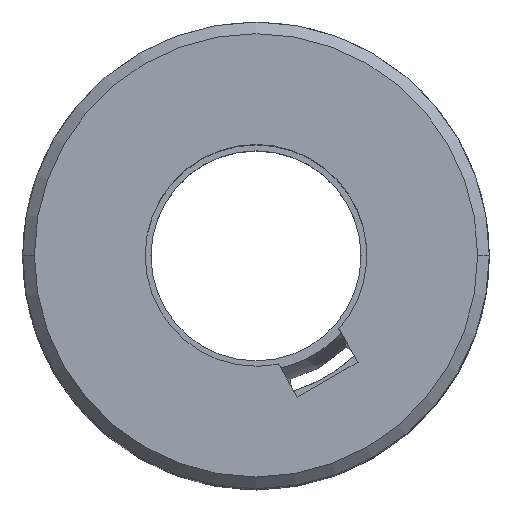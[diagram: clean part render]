
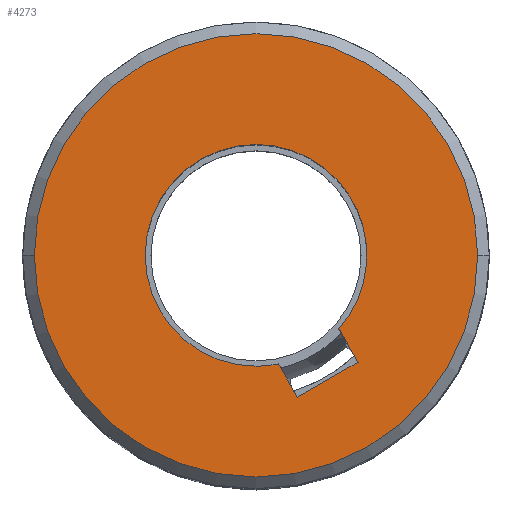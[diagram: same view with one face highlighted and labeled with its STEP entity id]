
A CAD part, top view. The second image highlights one B-rep face of the part: STEP entity #4273.
In plain terms, the highlighted planar face has unit normal (0, 0, 1) as drawn and (0, 0, -1) by its records, which use the part's own axes.
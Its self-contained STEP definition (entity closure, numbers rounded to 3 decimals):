
#31 = ORIENTED_EDGE ( 'NONE', *, *, #203, .T. ) ;
#42 = CARTESIAN_POINT ( 'NONE',  ( -9.152, 8.748, -25. ) ) ;
#104 = CIRCLE ( 'NONE', #4157, 9.5 ) ;
#167 = DIRECTION ( 'NONE',  ( -0.866, 0.5, 0. ) ) ;
#203 = EDGE_CURVE ( 'NONE', #4636, #1594, #5671, .T. ) ;
#334 = PLANE ( 'NONE',  #1576 ) ;
#537 = CIRCLE ( 'NONE', #3840, 19. ) ;
#570 = VECTOR ( 'NONE', #4685, 1000. ) ;
#583 = CARTESIAN_POINT ( 'NONE',  ( 0., 0., -25. ) ) ;
#668 = CARTESIAN_POINT ( 'NONE',  ( -12.152, 3.552, -25. ) ) ;
#670 = DIRECTION ( 'NONE',  ( -0.98, 0.201, 0. ) ) ;
#799 = DIRECTION ( 'NONE',  ( 0., 0., -1. ) ) ;
#907 = LINE ( 'NONE', #2234, #4038 ) ;
#996 = LINE ( 'NONE', #1912, #3902 ) ;
#1014 = DIRECTION ( 'NONE',  ( 0., 0., 1. ) ) ;
#1385 = EDGE_CURVE ( 'NONE', #4794, #2211, #104, .T. ) ;
#1505 = EDGE_LOOP ( 'NONE', ( #31, #3891, #3301, #3662, #5540, #3779 ) ) ;
#1576 = AXIS2_PLACEMENT_3D ( 'NONE', #4850, #799, #3491 ) ;
#1594 = VERTEX_POINT ( 'NONE', #1767 ) ;
#1691 = FACE_BOUND ( 'NONE', #1505, .T. ) ;
#1727 = EDGE_CURVE ( 'NONE', #2661, #2994, #1909, .T. ) ;
#1767 = CARTESIAN_POINT ( 'NONE',  ( -9.5, 0., -25. ) ) ;
#1818 = DIRECTION ( 'NONE',  ( 0., 0., -1. ) ) ;
#1835 = DIRECTION ( 'NONE',  ( -0.98, 0.201, 0. ) ) ;
#1909 = CIRCLE ( 'NONE', #2955, 19. ) ;
#1912 = CARTESIAN_POINT ( 'NONE',  ( -9.306, 1.909, -25. ) ) ;
#2024 = CARTESIAN_POINT ( 'NONE',  ( 0., 19., -25. ) ) ;
#2055 = LINE ( 'NONE', #668, #570 ) ;
#2170 = EDGE_CURVE ( 'NONE', #1594, #4794, #2265, .T. ) ;
#2211 = VERTEX_POINT ( 'NONE', #2219 ) ;
#2219 = CARTESIAN_POINT ( 'NONE',  ( -6.306, 7.105, -25. ) ) ;
#2234 = CARTESIAN_POINT ( 'NONE',  ( -9.152, 8.748, -25. ) ) ;
#2265 = CIRCLE ( 'NONE', #5562, 9.5 ) ;
#2595 = EDGE_CURVE ( 'NONE', #4416, #3634, #2055, .T. ) ;
#2661 = VERTEX_POINT ( 'NONE', #2024 ) ;
#2857 = CARTESIAN_POINT ( 'NONE',  ( -12.152, 3.552, -25. ) ) ;
#2914 = CARTESIAN_POINT ( 'NONE',  ( 0., 0., -25. ) ) ;
#2955 = AXIS2_PLACEMENT_3D ( 'NONE', #583, #1818, #5505 ) ;
#2994 = VERTEX_POINT ( 'NONE', #5679 ) ;
#3008 = ORIENTED_EDGE ( 'NONE', *, *, #1727, .T. ) ;
#3051 = FACE_OUTER_BOUND ( 'NONE', #4633, .T. ) ;
#3072 = DIRECTION ( 'NONE',  ( 0.866, -0.5, 0. ) ) ;
#3301 = ORIENTED_EDGE ( 'NONE', *, *, #1385, .T. ) ;
#3454 = EDGE_CURVE ( 'NONE', #4636, #4416, #996, .T. ) ;
#3491 = DIRECTION ( 'NONE',  ( 0., -1., 0. ) ) ;
#3634 = VERTEX_POINT ( 'NONE', #42 ) ;
#3640 = CARTESIAN_POINT ( 'NONE',  ( 0., 0., -25. ) ) ;
#3662 = ORIENTED_EDGE ( 'NONE', *, *, #5427, .F. ) ;
#3722 = CARTESIAN_POINT ( 'NONE',  ( 0., 0., -25. ) ) ;
#3779 = ORIENTED_EDGE ( 'NONE', *, *, #3454, .F. ) ;
#3840 = AXIS2_PLACEMENT_3D ( 'NONE', #3722, #5516, #5575 ) ;
#3891 = ORIENTED_EDGE ( 'NONE', *, *, #2170, .T. ) ;
#3902 = VECTOR ( 'NONE', #167, 1000. ) ;
#4038 = VECTOR ( 'NONE', #3072, 1000. ) ;
#4157 = AXIS2_PLACEMENT_3D ( 'NONE', #3640, #1014, #1835 ) ;
#4273 = ADVANCED_FACE ( 'NONE', ( #1691, #3051 ), #334, .T. ) ;
#4378 = CARTESIAN_POINT ( 'NONE',  ( 0., 0., -25. ) ) ;
#4416 = VERTEX_POINT ( 'NONE', #2857 ) ;
#4633 = EDGE_LOOP ( 'NONE', ( #3008, #4953 ) ) ;
#4636 = VERTEX_POINT ( 'NONE', #5764 ) ;
#4685 = DIRECTION ( 'NONE',  ( 0.5, 0.866, 0. ) ) ;
#4687 = DIRECTION ( 'NONE',  ( 0., 0., 1. ) ) ;
#4734 = AXIS2_PLACEMENT_3D ( 'NONE', #2914, #4687, #670 ) ;
#4794 = VERTEX_POINT ( 'NONE', #5755 ) ;
#4850 = CARTESIAN_POINT ( 'NONE',  ( 0., 0., -25. ) ) ;
#4879 = DIRECTION ( 'NONE',  ( 0., 0., 1. ) ) ;
#4928 = EDGE_CURVE ( 'NONE', #2661, #2994, #537, .T. ) ;
#4953 = ORIENTED_EDGE ( 'NONE', *, *, #4928, .F. ) ;
#5427 = EDGE_CURVE ( 'NONE', #3634, #2211, #907, .T. ) ;
#5505 = DIRECTION ( 'NONE',  ( 0., 1., 0. ) ) ;
#5516 = DIRECTION ( 'NONE',  ( 0., 0., 1. ) ) ;
#5540 = ORIENTED_EDGE ( 'NONE', *, *, #2595, .F. ) ;
#5562 = AXIS2_PLACEMENT_3D ( 'NONE', #4378, #4879, #5703 ) ;
#5575 = DIRECTION ( 'NONE',  ( 0., 1., 0. ) ) ;
#5671 = CIRCLE ( 'NONE', #4734, 9.5 ) ;
#5679 = CARTESIAN_POINT ( 'NONE',  ( 0., -19., -25. ) ) ;
#5703 = DIRECTION ( 'NONE',  ( -0.98, 0.201, 0. ) ) ;
#5755 = CARTESIAN_POINT ( 'NONE',  ( 9.5, 0., -25. ) ) ;
#5764 = CARTESIAN_POINT ( 'NONE',  ( -9.306, 1.909, -25. ) ) ;
